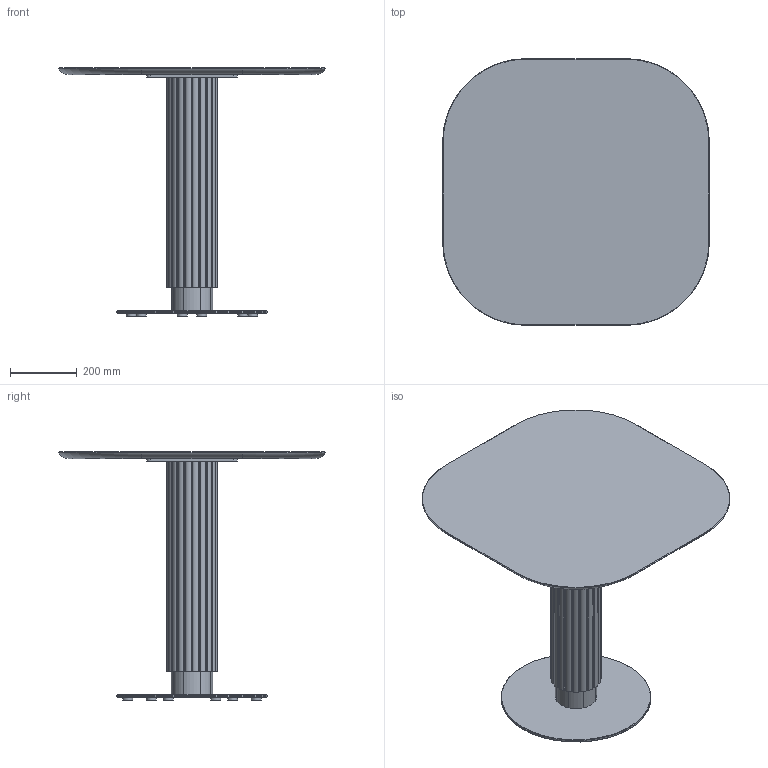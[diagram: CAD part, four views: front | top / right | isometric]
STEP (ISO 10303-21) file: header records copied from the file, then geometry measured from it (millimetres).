
FILE_DESCRIPTION( ('This file contains a STEP AP42 implementation' ,'as created by ZW3D STEP Interface translator.') ,'2;1' );
FILE_NAME( 'Godron - B_Rond - F2 - M3 - 800 x 800 x 750.stp' ,'24 912.12 4 8', (''), ('ZWCAD Software Co.'), 'Version 1.0', 'ZW3D to STEP translator', '' );
FILE_SCHEMA(('AUTOMOTIVE_DESIGN { 1 0 10303 214 1 1 1 1 }'));
Length unit declared in the file: millimetre
Products named in the file (15): 0; PIED BISTROT PARAMETRIQUE_; SOCLE ACIER C Ø450 V.02_; SCL-D450-02_; PLA-R30A-01_; PLA-R30A-01; CROIX ACIER 370 V.02_; CRX-X370-02_; COLONNE ACIER Ø48.5 V.02_; TUB-D048-02_; PLA-R48A-01_; Colonne GODRON H700_; WUERTH 0276063020 Euro-screw 6.3x2 Verzinkt_; PLATEAU BISTROT PARAMETRIQUE_; insert_m6_13_
Assembly tree (25 placements, depth 3):
  0
  PIED BISTROT PARAMETRIQUE_
    SOCLE ACIER C Ø450 V.02_
      SCL-D450-02_
      PLA-R30A-01_
      PLA-R30A-01  x5
    CROIX ACIER 370 V.02_
      CRX-X370-02_
    COLONNE ACIER Ø48.5 V.02_
      TUB-D048-02_
      PLA-R48A-01_  x2
    Colonne GODRON H700_
    WUERTH 0276063020 Euro-screw 6.3x2 Verzinkt_
    PLATEAU BISTROT PARAMETRIQUE_
      insert_m6_13_  x8
Bounding box: 800 x 800 x 744 mm (x, y, z)
Volume: 23642660 mm3; surface area: 2943896.5 mm2
Topology: 29 solids, 29 shells, 656 faces, 1625 edges, 1042 vertices
Faces by surface type: plane 290, cylinder 197, bspline 121, cone 43, torus 5
Full cylindrical faces by diameter (mm): 4.88 x1, 6 x8, 6.3 x1, 8 x47, 12 x2, 14 x2, 30 x6, 44.5 x3, 48.5 x1, 450 x1
Entity records: 16242 total; most frequent: CARTESIAN_POINT 4039, DIRECTION 2257, ORIENTED_EDGE 2240, EDGE_CURVE 1120, AXIS2_PLACEMENT_3D 808, VERTEX_POINT 728, VECTOR 641, LINE 641
